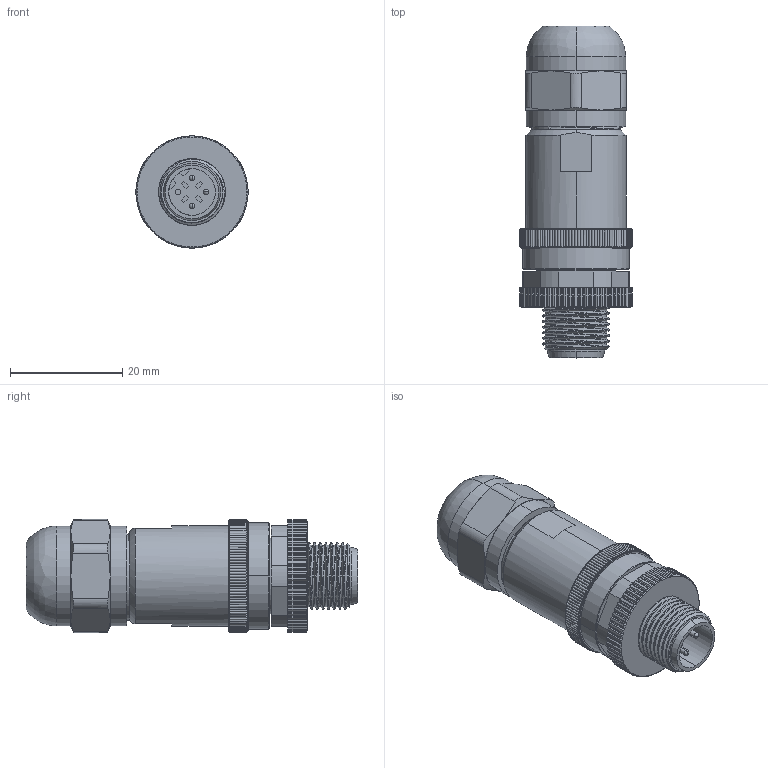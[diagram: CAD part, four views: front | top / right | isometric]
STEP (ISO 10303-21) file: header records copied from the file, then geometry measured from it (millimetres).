
FILE_DESCRIPTION((''),'2;1');
FILE_NAME('XC-M12P-WK-PG9','2025-06-23T14:49:48',('lyj'),(''),'CREO PARAMETRIC BY PTC INC, 2019010','CREO PARAMETRIC BY PTC INC, 2019010','');
FILE_SCHEMA(('CONFIG_CONTROL_DESIGN'));
Length unit declared in the file: millimetre
Products named in the file (1): XC-M12P-WK-PG9
Bounding box: 20 x 59.2 x 20.16 mm (x, y, z)
Volume: 8159.8 mm3; surface area: 13554 mm2
Topology: 1 solids, 23 shells, 1740 faces, 4539 edges, 2890 vertices
Faces by surface type: cylinder 836, plane 410, cone 373, bspline 61, extrusion 28, torus 26, sphere 6
Entity records: 87080 total; most frequent: CARTESIAN_POINT 46156, ORIENTED_EDGE 9066, DIRECTION 7886, EDGE_CURVE 4533, AXIS2_PLACEMENT_3D 3130, VERTEX_POINT 2890, EDGE_LOOP 1833, FACE_OUTER_BOUND 1740
